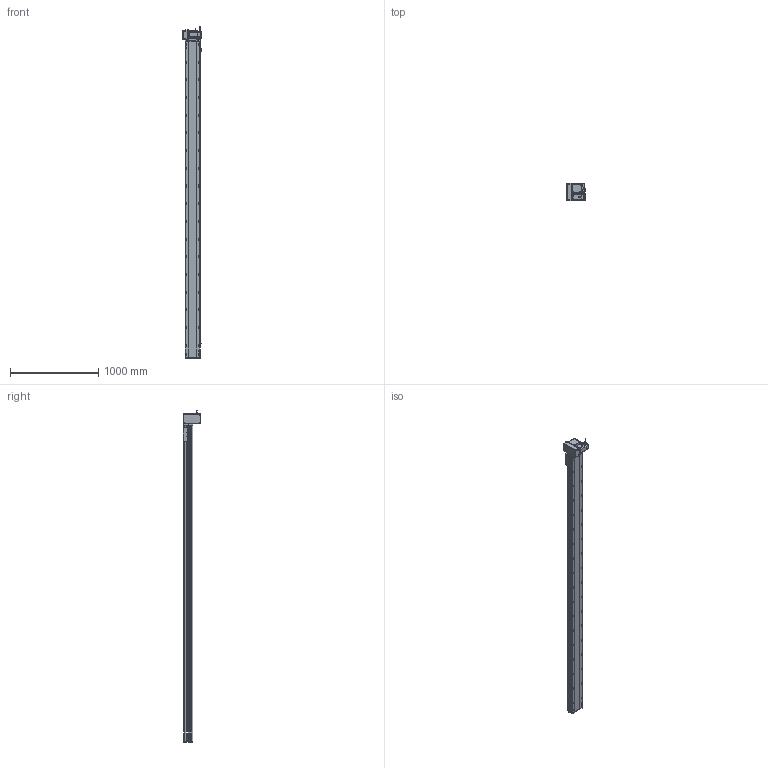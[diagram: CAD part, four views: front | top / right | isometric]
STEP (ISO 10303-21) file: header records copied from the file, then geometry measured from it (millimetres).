
FILE_DESCRIPTION (( 'STEP AP214' ), '1' );
FILE_NAME ('RTB17S-XX-3300-LM-M75-C4.STEP', '2025-12-12T00:51:33', ( '' ), ( '' ), 'SwSTEP 2.0', 'SolidWorks 2018', '' );
FILE_SCHEMA (( 'AUTOMOTIVE_DESIGN' ));
Length unit declared in the file: millimetre
Products named in the file (15): EE672^RTB17S-XX-XX-LM-M75-C4; RTB17S-L-004-賑釱^RTB17S-賑釱_RTB17S-XX-XX-LM-M75-C4; RTB17S-L-001-耜醱啣^RTB17S-XX-XX-LM-M75-C4; RTB22S-GY-005P^RTB17S-LM-々湍釱蚾饜-750W_RTB17S-XX-XX-LM-M75-C4; RTB17S-XX-3300-LM-M75-C4; RTB17S-L-014-T20-P75--々湍釱^RTB17S-LM-々湍釱蚾饜-750W_RTB17S-XX-XX-LM-M75-C4; RTB17S-賑釱^RTB17S-XX-XX-LM-M75-C4; RTB22S-GY-008-M75--萇儂啣^RTB17S-LM-々湍釱蚾饜-750W_RTB17S-XX-XX-LM-M75-C4; RTB22S-GY-017P^RTB17S-LM-々湍釱蚾饜-750W_RTB17S-XX-XX-LM-M75-C4; 750W萇儂^RTB17S-XX-XX-LM-M75-C4; RTB17-R-011菁釱^RTB17S-XX-XX-LM-M75-C4; RTB17S-L-007奻裔^RTB17S-XX-XX-LM-M75-C4; RTB22S-GY-018P^RTB17S-LM-々湍釱蚾饜-750W_RTB17S-XX-XX-LM-M75-C4; RTH13-BL-012覜茼え俋离^RTB17S-賑釱_RTB17S-XX-XX-LM-M75-C4; RTB17S-LM-々湍釱蚾饜-750W^RTB17S-XX-XX-LM-M75-C4
Assembly tree (17 placements, depth 3):
  RTB17S-XX-3300-LM-M75-C4
    RTB17-R-011菁釱^RTB17S-XX-XX-LM-M75-C4
    EE672^RTB17S-XX-XX-LM-M75-C4  x3
    RTB17S-L-001-耜醱啣^RTB17S-XX-XX-LM-M75-C4
    RTB17S-賑釱^RTB17S-XX-XX-LM-M75-C4
      RTB17S-L-004-賑釱^RTB17S-賑釱_RTB17S-XX-XX-LM-M75-C4
      RTH13-BL-012覜茼え俋离^RTB17S-賑釱_RTB17S-XX-XX-LM-M75-C4
    RTB17S-L-007奻裔^RTB17S-XX-XX-LM-M75-C4
    750W萇儂^RTB17S-XX-XX-LM-M75-C4
    RTB17S-LM-々湍釱蚾饜-750W^RTB17S-XX-XX-LM-M75-C4
      RTB17S-L-014-T20-P75--々湍釱^RTB17S-LM-々湍釱蚾饜-750W_RTB17S-XX-XX-LM-M75-C4
      RTB22S-GY-005P^RTB17S-LM-々湍釱蚾饜-750W_RTB17S-XX-XX-LM-M75-C4
      RTB22S-GY-017P^RTB17S-LM-々湍釱蚾饜-750W_RTB17S-XX-XX-LM-M75-C4  x2
      RTB22S-GY-008-M75--萇儂啣^RTB17S-LM-々湍釱蚾饜-750W_RTB17S-XX-XX-LM-M75-C4
      RTB22S-GY-018P^RTB17S-LM-々湍釱蚾饜-750W_RTB17S-XX-XX-LM-M75-C4
Bounding box: 210.4 x 200 x 3752.2 mm (x, y, z)
Volume: 26576183.3 mm3; surface area: 4896975.6 mm2
Topology: 17 solids, 17 shells, 2281 faces, 6430 edges, 4166 vertices
Faces by surface type: plane 994, cylinder 871, bspline 294, cone 110, sphere 8, torus 4
Entity records: 67318 total; most frequent: CARTESIAN_POINT 20094, ORIENTED_EDGE 9704, DIRECTION 8942, EDGE_CURVE 4852, AXIS2_PLACEMENT_3D 3186, VERTEX_POINT 3170, VECTOR 2570, LINE 2570
